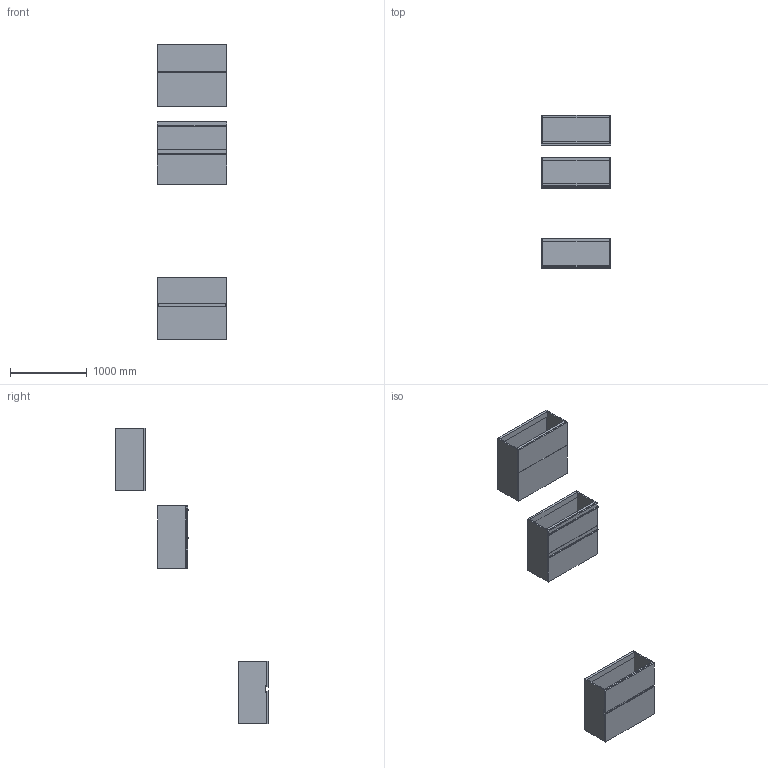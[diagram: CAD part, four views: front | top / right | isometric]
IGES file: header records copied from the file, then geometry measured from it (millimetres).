
Start section: Data from Parasolid IGES Translator 19.0.9, Copyright(c) 2006 Siemens PL M Software. All Rights Reserved.
Global section: file name: noorth-SI-H 81,2 D 38,8 W 90_8669.igs; native system: By Siemens PLM Incorporated; preprocessor: XPlus GENERIC/IGES 19.0.9; author: Noname; organization: Noname; date: 20200601.122815; units: metre
Bounding box: 900 x 1986 x 3842 mm (x, y, z)
Volume: 98185486.7 mm3; surface area: 15620172.2 mm2
Topology: 27 solids, 27 shells, 266 faces, 580 edges, 348 vertices
Faces by surface type: plane 182, extrusion 36, bspline 32, cylinder 16
